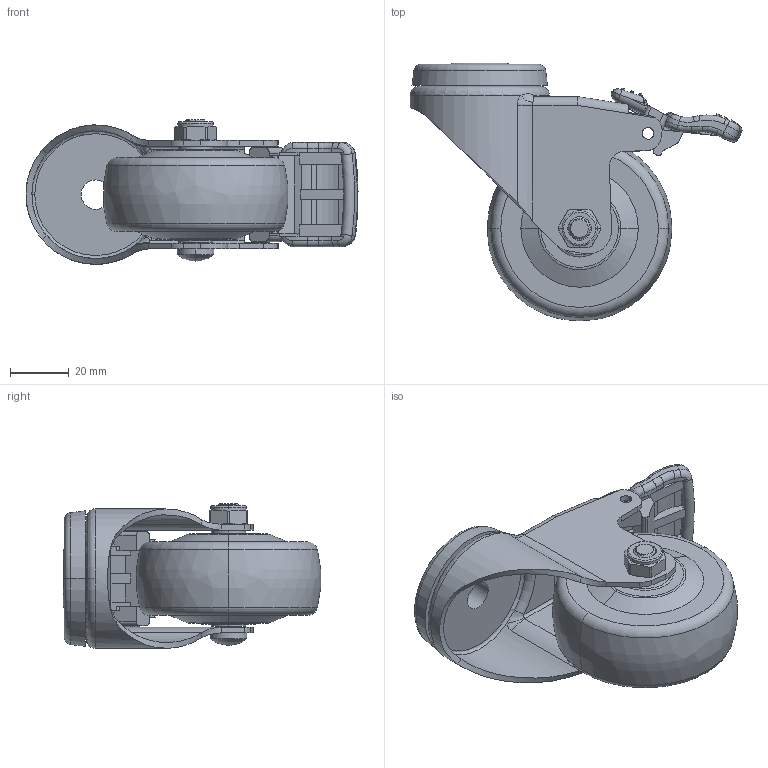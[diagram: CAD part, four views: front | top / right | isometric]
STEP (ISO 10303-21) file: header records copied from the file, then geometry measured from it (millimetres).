
FILE_DESCRIPTION((''),'2;1');
FILE_NAME('361125-3625-64_ASM','2020-01-03T',('L'),(''),'PRO/ENGINEER BY PARAMETRIC TECHNOLOGY CORPORATION, 2010280','PRO/ENGINEER BY PARAMETRIC TECHNOLOGY CORPORATION, 2010280','');
FILE_SCHEMA(('CONFIG_CONTROL_DESIGN'));
Length unit declared in the file: millimetre
Products named in the file (6): 361825H; 3625-964; 350-33A; 300-34; 3601-64; 361125-3625-64_ASM
Assembly tree (5 placements, depth 2):
  361125-3625-64_ASM
    361825H
    3625-964
    350-33A
    300-34
    3601-64
Bounding box: 113.04 x 87.61 x 49.22 mm (x, y, z)
Volume: 115496.6 mm3; surface area: 37905.4 mm2
Topology: 5 solids, 5 shells, 443 faces, 1114 edges, 692 vertices
Faces by surface type: cylinder 150, plane 141, bspline 66, torus 40, cone 32, sphere 14
Entity records: 20264 total; most frequent: CARTESIAN_POINT 10012, ORIENTED_EDGE 2224, DIRECTION 1965, EDGE_CURVE 1112, AXIS2_PLACEMENT_3D 749, VERTEX_POINT 692, EDGE_LOOP 474, VECTOR 467
